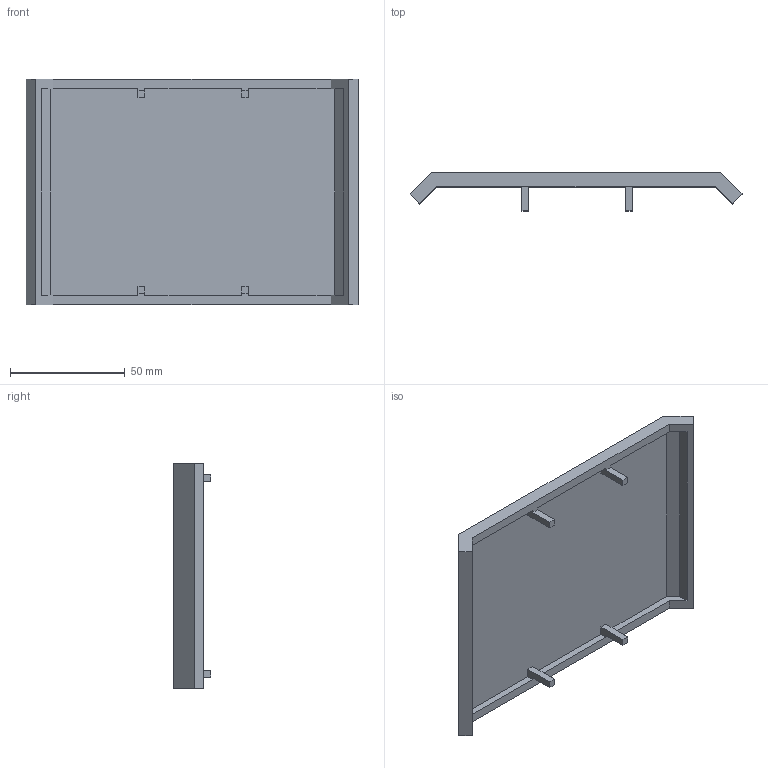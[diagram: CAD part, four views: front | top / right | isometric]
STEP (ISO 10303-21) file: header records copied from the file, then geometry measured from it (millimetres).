
FILE_DESCRIPTION (( 'STEP AP203' ), '1' );
FILE_NAME ('1079cap.STEP', '2016-04-09T14:01:27', ( '' ), ( '' ), 'SwSTEP 2.0', 'SolidWorks 2014', '' );
FILE_SCHEMA (( 'CONFIG_CONTROL_DESIGN' ));
Length unit declared in the file: millimetre
Products named in the file (1): 1079cap
Bounding box: 144.38 x 16.5 x 98 mm (x, y, z)
Volume: 50439.5 mm3; surface area: 33841.3 mm2
Topology: 1 solids, 1 shells, 42 faces, 120 edges, 80 vertices
Faces by surface type: plane 42
Entity records: 1421 total; most frequent: CARTESIAN_POINT 243, ORIENTED_EDGE 240, DIRECTION 206, LINE 120, EDGE_CURVE 120, VECTOR 120, VERTEX_POINT 80, AXIS2_PLACEMENT_3D 43
